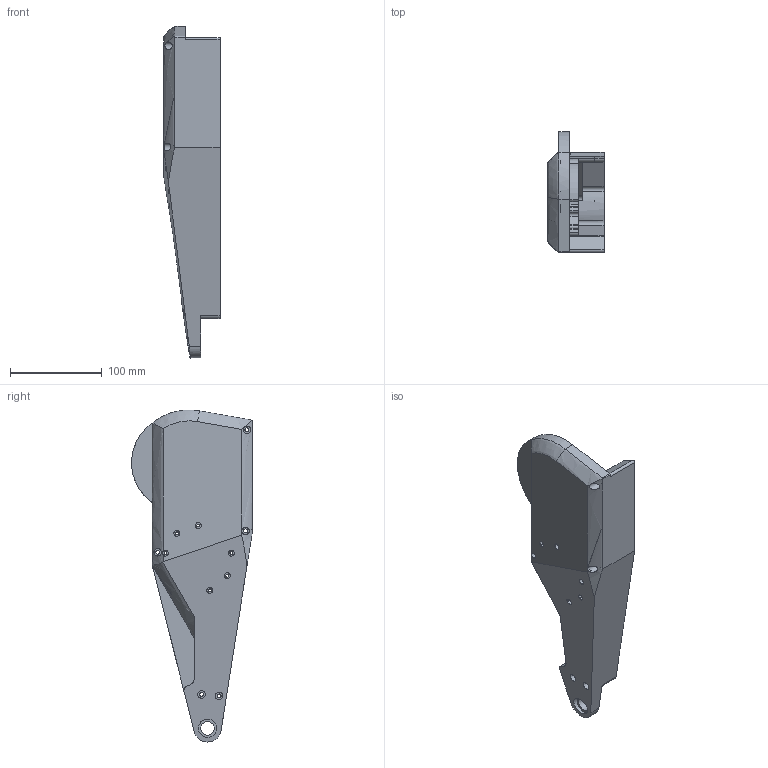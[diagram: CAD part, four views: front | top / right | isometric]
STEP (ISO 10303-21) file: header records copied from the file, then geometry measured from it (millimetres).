
FILE_DESCRIPTION(/* description */ ('STEP AP242 Edition 2','CAx-IF Rec.Pracs.---Representation and Presentation of Product Manufacturing Information (PMI)---4.0---2014-10-13','CAx-IF Rec.Pracs.---3D Tessellated Geometry---0.4---2014-09-14','2;1','CAx-IF Rec.Pracs.---User Defined Attributes---1.5---2016-08-15'),/* implementation_level */ '2;1');
FILE_NAME(/* name */ 'Assy_ForMFG - KD-D-402R',/* time_stamp */ '2026-05-15T19:56:37Z',/* author */ (''),/* organization */ (''),/* preprocessor_version */ 'ST-DEVELOPER v20',/* originating_system */ 'ONSHAPE BY PTC INC, 1.215',/* authorisation */ ' ');
FILE_SCHEMA (('AP242_MANAGED_MODEL_BASED_3D_ENGINEERING_MIM_LF { 1 0 10303 442 3 1 4 }'));
Length unit declared in the file: metre
Products named in the file (1): KD-D-402R
Bounding box: 61.25 x 131.93 x 362.69 mm (x, y, z)
Volume: 210924.7 mm3; surface area: 160822.5 mm2
Topology: 1 solids, 1 shells, 259 faces, 733 edges, 487 vertices
Faces by surface type: cylinder 142, plane 92, bspline 19, cone 3, torus 3
Full cylindrical faces by diameter (mm): 3 x1, 3.2 x6, 4.3 x5, 6.5 x6, 8.25 x5, 15 x1, 20 x1
Entity records: 9197 total; most frequent: CARTESIAN_POINT 2560, ORIENTED_EDGE 1390, DIRECTION 1366, EDGE_CURVE 695, AXIS2_PLACEMENT_3D 538, VERTEX_POINT 478, FACE_BOUND 323, EDGE_LOOP 322
